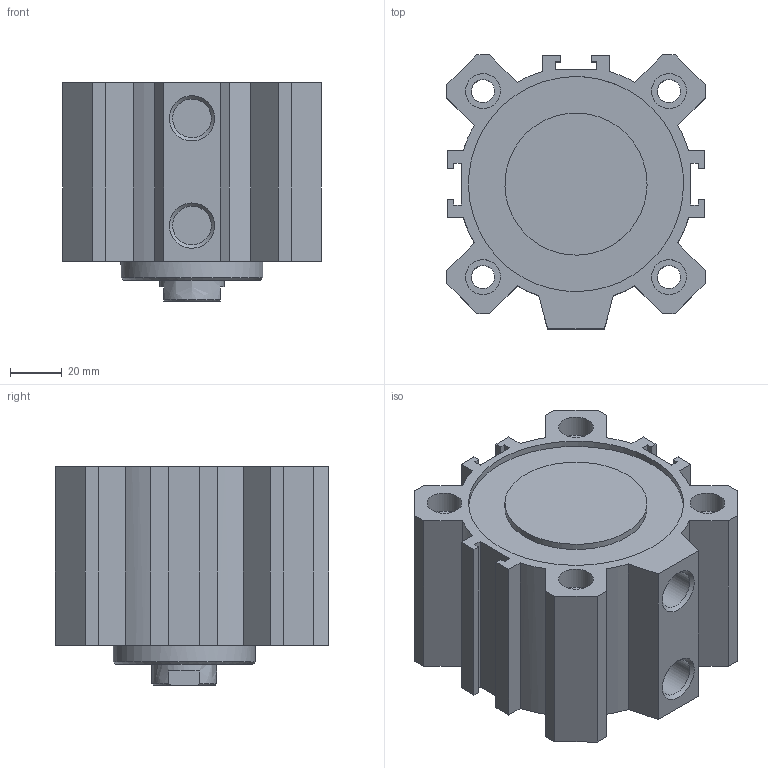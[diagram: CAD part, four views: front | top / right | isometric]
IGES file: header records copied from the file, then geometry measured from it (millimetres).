
Global section: file name: 1511_80_0020; native system: Autodesk Inventor 2014; preprocessor: unknown; author: A. Manieri; date: 20160824.142128; units: millimetre
Bounding box: 100 x 106 x 84.5 mm (x, y, z)
Volume: 473749.2 mm3; surface area: 105257.2 mm2
Topology: 2 solids, 2 shells, 119 faces, 307 edges, 210 vertices
Faces by surface type: bspline 119
